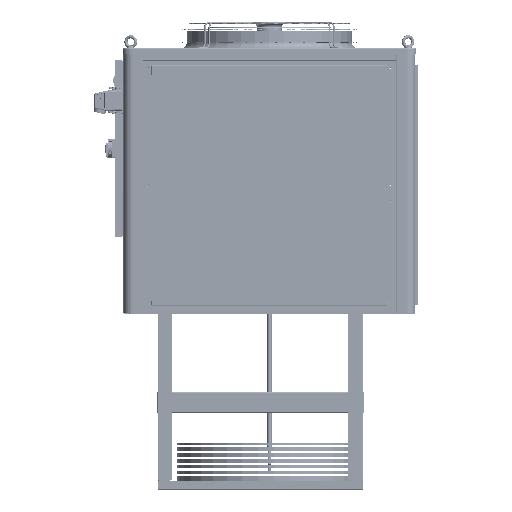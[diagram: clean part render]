
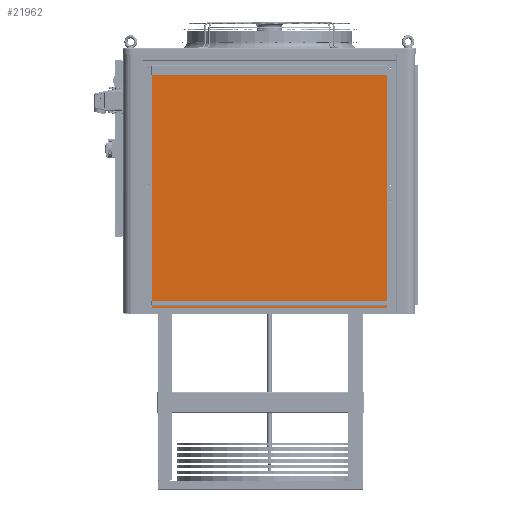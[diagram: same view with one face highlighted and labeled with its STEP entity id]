
A CAD part, front view. The second image highlights one B-rep face of the part: STEP entity #21962.
In plain terms, the highlighted planar face has unit normal (0, -1, 0) as drawn and (0, 0, 1) by its records, which use the part's own axes.
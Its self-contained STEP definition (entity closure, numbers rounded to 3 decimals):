
#731 = DIRECTION ( 'NONE',  ( 1., 0., 0. ) ) ;
#1919 = LINE ( 'NONE', #181264, #142322 ) ;
#8805 = ORIENTED_EDGE ( 'NONE', *, *, #121142, .T. ) ;
#11415 = ORIENTED_EDGE ( 'NONE', *, *, #35010, .T. ) ;
#16423 = CARTESIAN_POINT ( 'NONE',  ( 0., 0., 0. ) ) ;
#18272 = VECTOR ( 'NONE', #136288, 1000. ) ;
#21962 = ADVANCED_FACE ( 'NONE', ( #75913 ), #30864, .F. ) ;
#28960 = DIRECTION ( 'NONE',  ( 0., 0., -1. ) ) ;
#29192 = CARTESIAN_POINT ( 'NONE',  ( 0., 0., 0. ) ) ;
#30864 = PLANE ( 'NONE',  #117089 ) ;
#31517 = VERTEX_POINT ( 'NONE', #39590 ) ;
#35010 = EDGE_CURVE ( 'NONE', #66324, #172155, #44817, .T. ) ;
#39327 = CARTESIAN_POINT ( 'NONE',  ( 800., 800., 0. ) ) ;
#39590 = CARTESIAN_POINT ( 'NONE',  ( 0., 800., 0. ) ) ;
#44817 = LINE ( 'NONE', #29192, #85106 ) ;
#46979 = DIRECTION ( 'NONE',  ( 0., 1., 0. ) ) ;
#62734 = CARTESIAN_POINT ( 'NONE',  ( 0., 800., 0. ) ) ;
#66324 = VERTEX_POINT ( 'NONE', #169096 ) ;
#75913 = FACE_OUTER_BOUND ( 'NONE', #146495, .T. ) ;
#75950 = ORIENTED_EDGE ( 'NONE', *, *, #83576, .T. ) ;
#83576 = EDGE_CURVE ( 'NONE', #31517, #66324, #192879, .T. ) ;
#85106 = VECTOR ( 'NONE', #731, 1000. ) ;
#88253 = ORIENTED_EDGE ( 'NONE', *, *, #141080, .T. ) ;
#90909 = DIRECTION ( 'NONE',  ( 0., -1., 0. ) ) ;
#106329 = CARTESIAN_POINT ( 'NONE',  ( 800., 0., 0. ) ) ;
#117089 = AXIS2_PLACEMENT_3D ( 'NONE', #167069, #28960, #148501 ) ;
#121142 = EDGE_CURVE ( 'NONE', #172155, #130536, #1919, .T. ) ;
#130536 = VERTEX_POINT ( 'NONE', #39327 ) ;
#136288 = DIRECTION ( 'NONE',  ( -1., 0., 0. ) ) ;
#141080 = EDGE_CURVE ( 'NONE', #130536, #31517, #151968, .T. ) ;
#142322 = VECTOR ( 'NONE', #46979, 1000. ) ;
#146495 = EDGE_LOOP ( 'NONE', ( #75950, #11415, #8805, #88253 ) ) ;
#148501 = DIRECTION ( 'NONE',  ( 0., -1., 0. ) ) ;
#149886 = VECTOR ( 'NONE', #90909, 1000. ) ;
#151968 = LINE ( 'NONE', #62734, #18272 ) ;
#167069 = CARTESIAN_POINT ( 'NONE',  ( 0., 0., 0. ) ) ;
#169096 = CARTESIAN_POINT ( 'NONE',  ( 0., 0., 0. ) ) ;
#172155 = VERTEX_POINT ( 'NONE', #106329 ) ;
#181264 = CARTESIAN_POINT ( 'NONE',  ( 800., 0., 0. ) ) ;
#192879 = LINE ( 'NONE', #16423, #149886 ) ;
